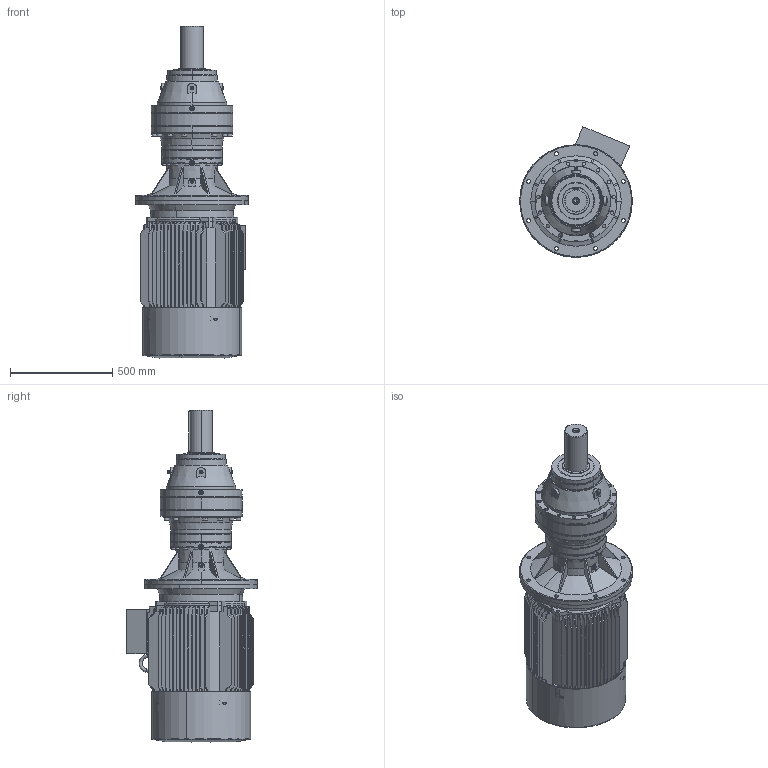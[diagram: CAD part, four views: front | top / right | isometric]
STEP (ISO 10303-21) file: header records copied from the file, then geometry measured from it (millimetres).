
FILE_DESCRIPTION (( 'STEP AP203' ), '1' );
FILE_NAME ('PVL-2702L-HS250-4.STEP', '2019-05-22T08:52:27', ( '' ), ( '' ), 'SwSTEP 2.0', 'SolidWorks 2012', '' );
FILE_SCHEMA (( 'CONFIG_CONTROL_DESIGN' ));
Products named in the file (16): 250-4B5; Y2-250-2.4.6.8ｦｾﾂ-ｩﾃ Y2-250-2ﾃｦﾂ-ｩﾃ_-ｼ+､; Y2-250-4.6.8-ｦﾈﾁﾂ-ｩﾃ_-ｼ+､; 280ﾁｧ+ﾀ_-ｼ+､; Y2-250 B5+ｷﾎｨ_-ｼ+､; Y2-250-4ﾍﾟ_-ｼ+､; Y2-250M-2.4.6.8ﾀiﾍ_-ｼ+､; FL12A_Varsayìlan; PNL_2702L_0_0_A25_B5_ML43A_FL12A_0_0_0_0_0_0_0_0_0_0_0_M1; Y2-250-4.6.8ú¼280-2Ã¦Íß¦ð-Ô©Ã_-¼+¤; EK2702L_Varsayìlan; 19250B5_Varsayìlan; ML43A_Varsayìlan; P27_Varsayìlan; HS250M-4-B5; PVL-2702L-HS250-4
Assembly tree (15 placements, depth 4):
  PVL-2702L-HS250-4
    PNL_2702L_0_0_A25_B5_ML43A_FL12A_0_0_0_0_0_0_0_0_0_0_0_M1
      P27_Varsayìlan
      19250B5_Varsayìlan
      ML43A_Varsayìlan
      EK2702L_Varsayìlan
      FL12A_Varsayìlan
    HS250M-4-B5
      250-4B5
        Y2-250-4.6.8ú¼280-2Ã¦Íß¦ð-Ô©Ã_-¼+¤
        Y2-250-4ﾍﾟ_-ｼ+､
        Y2-250 B5+ｷﾎｨ_-ｼ+､
        Y2-250M-2.4.6.8ﾀiﾍ_-ｼ+､
        Y2-250-2.4.6.8ｦｾﾂ-ｩﾃ Y2-250-2ﾃｦﾂ-ｩﾃ_-ｼ+､
        280ﾁｧ+ﾀ_-ｼ+､
        Y2-250-4.6.8-ｦﾈﾁﾂ-ｩﾃ_-ｼ+､
Bounding box: 550 x 638.76 x 1621.97 mm (x, y, z)
Volume: 76926793.1 mm3; surface area: 7638328.3 mm2
Topology: 16 solids, 16 shells, 2460 faces, 6558 edges, 4226 vertices
Faces by surface type: plane 1033, cylinder 890, cone 383, bspline 154
Entity records: 86632 total; most frequent: CARTESIAN_POINT 24040, ORIENTED_EDGE 13004, DIRECTION 12624, EDGE_CURVE 6502, AXIS2_PLACEMENT_3D 4884, VERTEX_POINT 4226, VECTOR 2856, LINE 2856
